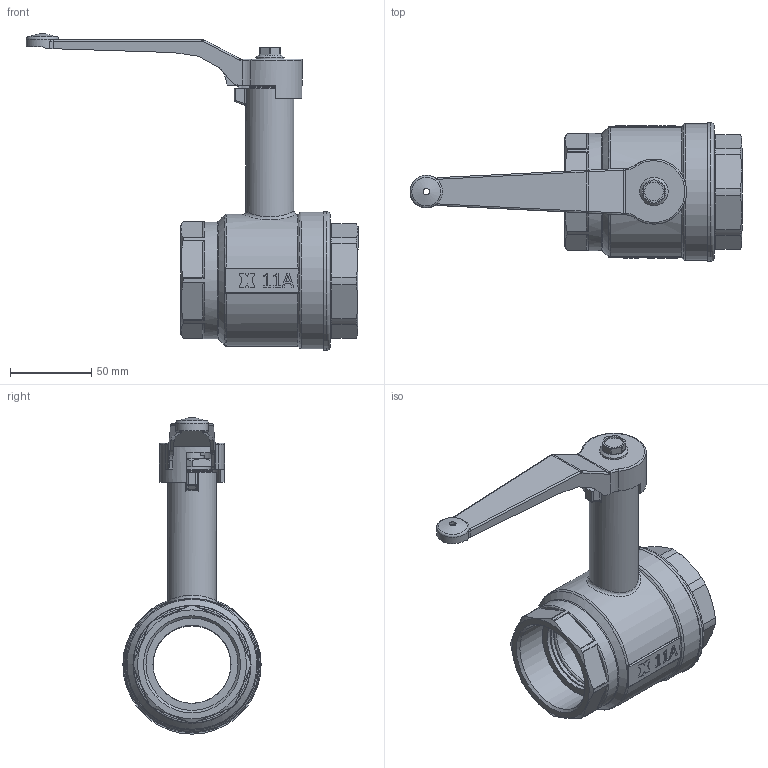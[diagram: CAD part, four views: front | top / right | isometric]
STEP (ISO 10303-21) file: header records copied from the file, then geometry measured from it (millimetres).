
FILE_DESCRIPTION(/* description */ ('Corpo prolunga femmina 2"'),/* implementation_level */ '2;1');
FILE_NAME(/* name */ '\\dcidrosfer01\user$\ut4\Desktop\Traber Ticom 13-03-15\Valvola a sfera 002 art.109.stp',/* time_stamp */ '2015-03-13T14:35:13+01:00',/* author */ ('ut4'),/* organization */ (''),/* preprocessor_version */ 'ST-DEVELOPER v15.6',/* originating_system */ 'Autodesk Inventor 2015',/* authorisation */ '');
FILE_SCHEMA (('AUTOMOTIVE_DESIGN { 1 0 10303 214 3 1 1 }'));
Length unit declared in the file: millimetre
Products named in the file (13): Corpo prolunga femmina 002; Perno prolunga lungo Ø19; Leva 4; Vite rond. inc. 8x12 DACRO; Sede 002; sfera 002; Manicotto femmina 002; Premistoppa prolunga 114 112; anello stoppa 23; O-ring 13.95 x 2.62; Rondella ottone prolunga 23; Tubetto prolunga 20 lungo; Valvola a sfera 002 art.109
Assembly tree (14 placements, depth 2):
  Valvola a sfera 002 art.109
    Corpo prolunga femmina 002
    Perno prolunga lungo Ø19
    Leva 4
    Vite rond. inc. 8x12 DACRO
    Sede 002  x2
    sfera 002
    Manicotto femmina 002
    Premistoppa prolunga 114 112
    anello stoppa 23
    O-ring 13.95 x 2.62
    Rondella ottone prolunga 23  x2
    Tubetto prolunga 20 lungo
Bounding box: 204.15 x 85 x 194.44 mm (x, y, z)
Volume: 331207.8 mm3; surface area: 145930.7 mm2
Topology: 14 solids, 14 shells, 551 faces, 1343 edges, 845 vertices
Faces by surface type: plane 260, cylinder 141, cone 65, bspline 45, torus 37, sphere 3
Full cylindrical faces by diameter (mm): 4 x1, 6.647 x1, 8 x1, 11.5 x1, 14.7 x1, 14.8 x2, 15 x1, 15.2 x1, 15.3 x1, 15.8 x2, 16 x3, 16.1 x1, 17.5 x2, 18 x1, 19 x2, 19.3 x1, 20 x2, 22.1 x1, 23 x3, 23.5 x1, 23.7 x1, 30 x1, 48 x5, 56.66 x1, 56.669 x1, 59 x4, 66 x1, 72 x1, 74.5 x1, 76 x1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
Entity records: 16399 total; most frequent: CARTESIAN_POINT 4201, DIRECTION 2400, ORIENTED_EDGE 2382, EDGE_CURVE 1191, AXIS2_PLACEMENT_3D 901, VERTEX_POINT 810, EDGE_LOOP 695, LINE 598
